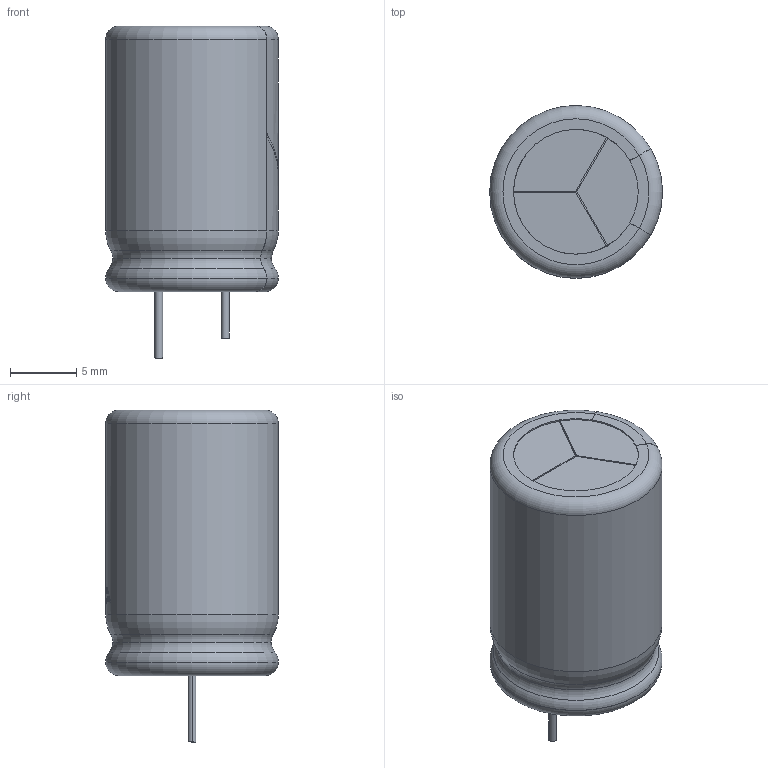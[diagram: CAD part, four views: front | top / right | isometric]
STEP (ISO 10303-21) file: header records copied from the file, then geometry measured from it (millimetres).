
FILE_DESCRIPTION (( 'STEP AP214' ), '1' );
FILE_NAME ('CAP-TH_BD13.0-P5.00-D1.2-FD.step', '2026-08-10T01:20:02', ( '' ), ( '' ), 'SwSTEP 2.0', 'SolidWorks 2021', '' );
FILE_SCHEMA (( 'AUTOMOTIVE_DESIGN' ));
Length unit declared in the file: millimetre
Products named in the file (1): CAP-TH_BD13.0-P5.00-D1.2-FD
Bounding box: 13.01 x 13 x 25.01 mm (x, y, z)
Volume: 2593.3 mm3; surface area: 1075.4 mm2
Topology: 1 solids, 1 shells, 281 faces, 773 edges, 516 vertices
Faces by surface type: plane 129, bspline 98, cylinder 39, torus 15
Entity records: 13524 total; most frequent: CARTESIAN_POINT 4507, ORIENTED_EDGE 1546, DIRECTION 793, EDGE_CURVE 773, VERTEX_POINT 516, EDGE_LOOP 303, UNCERTAINTY_MEASURE_WITH_UNIT 284, FILL_AREA_STYLE_COLOUR 283
